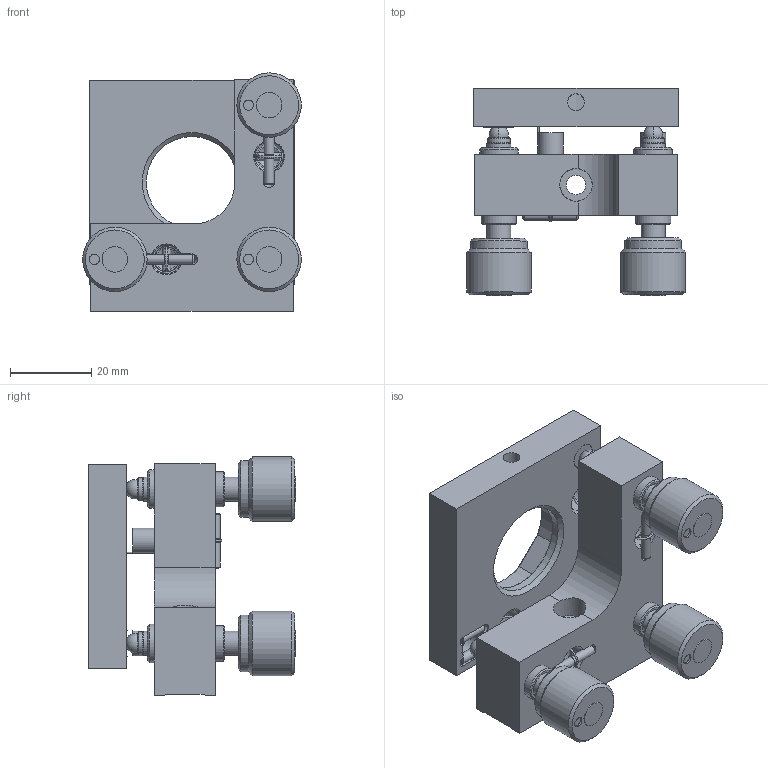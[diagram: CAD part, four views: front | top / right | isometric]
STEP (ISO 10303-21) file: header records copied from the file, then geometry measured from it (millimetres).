
FILE_DESCRIPTION(('Bauteilbeschreibung','HiCAD-Model','HiCAD-STEP-TRANSLATION','Bauteilbeschreibung'),'2;1');
FILE_NAME('D:/404505_STEP.STP','2005-03-02T15:06:16+00:00',('Konstrukteur'),('Konstrukteur Firma GmbH'),'HiCAD2 V1102 STEP 20.9.2001','HiCAD2 V1102','confidential');
FILE_SCHEMA(('AUTOMOTIVE_DESIGN { 1 2 10303 214 0 1 1 1 }'));
Length unit declared in the file: millimetre
Products named in the file (40): A0010882; BASE; A0008776; A00087760; A0008903; A00089030; A0008904; A0008758; A00089040; A0008772; A00087761; A00089031; A00089032; A00089041; A00087580; A00089042; A00087720; A00087762; A00089033; A00089034; A00089043; A00087581; A00089044; A00087721; A0008676; A00086760; A00086761; A0009083; A00090830; A00090831; A0010874; PLATE; A0009574; A00095740; A00095741; A0008863; A00088630; A00088631; A0008774; A0010101
Assembly tree (39 placements, depth 6):
  A0010882
    BASE
      A0008776
        A00087760
          A0008903
            A00089030
            A0008904
          A0008758
          A00089040
          A0008772
        A00087761
          A00089031
            A00089032
            A00089041
          A00087580
          A00089042
          A00087720
        A00087762
          A00089033
            A00089034
            A00089043
          A00087581
          A00089044
          A00087721
      A0008676
        A00086760
        A00086761
      A0009083
        A00090830
        A00090831
      A0010874
    PLATE
      A0009574
        A00095740
        A00095741
      A0008863
        A00088630
        A00088631
      A0008774
      A0010101
Bounding box: 53.88 x 51.16 x 58.69 mm (x, y, z)
Volume: 49190.5 mm3; surface area: 27099.5 mm2
Topology: 26 solids, 26 shells, 296 faces, 659 edges, 411 vertices
Faces by surface type: plane 124, cylinder 84, cone 68, sphere 12, torus 8
Full cylindrical faces by diameter (mm): 0.4 x4, 2.066 x4, 2.1 x2, 2.35 x4, 2.38 x2, 2.5 x6, 2.845 x2, 3.15 x1, 4.166 x1, 4.773 x1, 5.4 x2, 5.588 x3, 5.6 x3, 5.96 x3, 6 x1, 6.2 x2, 6.261 x3, 6.3 x1, 6.32 x3, 6.35 x3, 6.5 x1, 6.528 x1, 7.1 x2, 7.6 x2, 8 x1, 8.7 x6, 9.5 x3, 10.16 x3, 13.97 x3, 15.88 x3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
Entity records: 13627 total; most frequent: CARTESIAN_POINT 2448, DIRECTION 1410, ORIENTED_EDGE 848, COLOUR_RGB 746, PRESENTATION_STYLE_ASSIGNMENT 746, OVER_RIDING_STYLED_ITEM 720, AXIS2_PLACEMENT_3D 634, EDGE_LOOP 502
